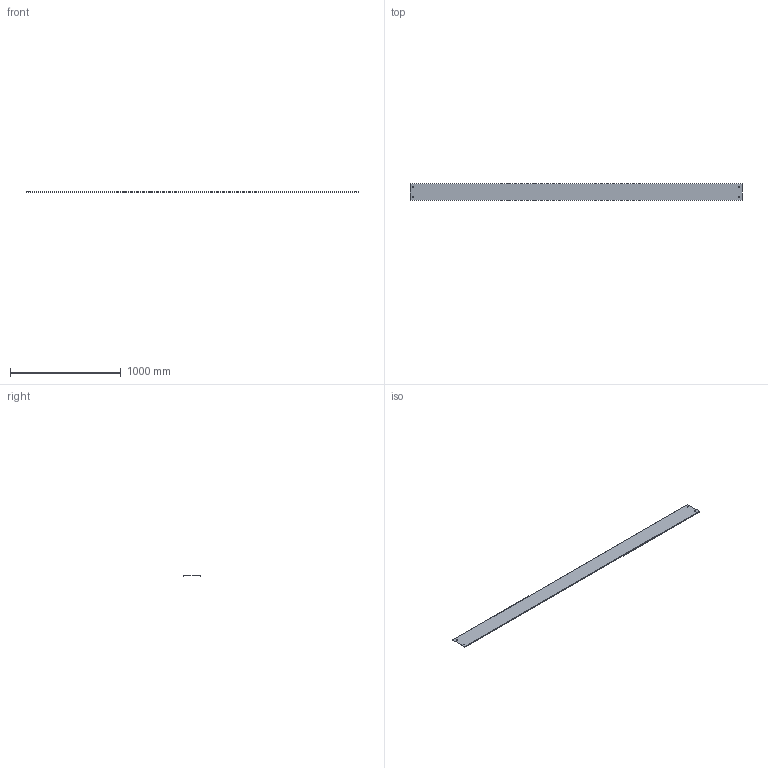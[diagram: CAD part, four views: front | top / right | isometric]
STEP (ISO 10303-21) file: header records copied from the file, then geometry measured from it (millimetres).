
FILE_DESCRIPTION(/* description */ ('','CAx-IF Rec.Pracs.---Representation and Presentation of Product Manufacturing Information (PMI)---4.0---2014-10-13'),/* implementation_level */ '2;1');
FILE_NAME(/* name */ 'Eurostrut_ECLSC-100_Straight Cover for Cable Ladder ECL.step',/* time_stamp */ '2026-09-08T14:26:05+02:00',/* author */ (''),/* organization */ (''),/* preprocessor_version */ 'ST-DEVELOPER v20.1',/* originating_system */ 'Autodesk Revit 2027 27.2.0.39',/* authorisation */ '');
FILE_SCHEMA (('AP242_MANAGED_MODEL_BASED_3D_ENGINEERING_MIM_LF { 1 0 10303 442 2 1 4 }'));
Length unit declared in the file: millimetre
Products named in the file (2): TopLevelAssembly; Extrusion
Assembly tree (1 placements, depth 2):
  TopLevelAssembly
    Extrusion
Bounding box: 3000 x 150 x 9 mm (x, y, z)
Volume: 742028.8 mm3; surface area: 999055.2 mm2
Topology: 1 solids, 1 shells, 18 faces, 48 edges, 32 vertices
Faces by surface type: plane 10, cylinder 8
Entity records: 618 total; most frequent: DIRECTION 106, CARTESIAN_POINT 101, ORIENTED_EDGE 96, EDGE_CURVE 48, AXIS2_PLACEMENT_3D 37, LINE 32, VECTOR 32, VERTEX_POINT 32
